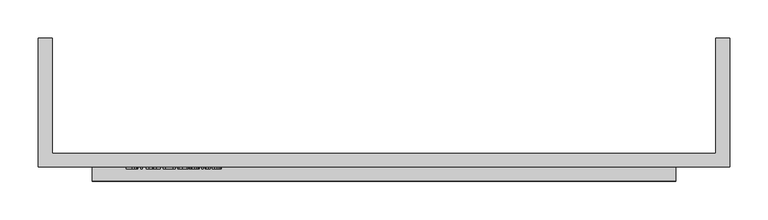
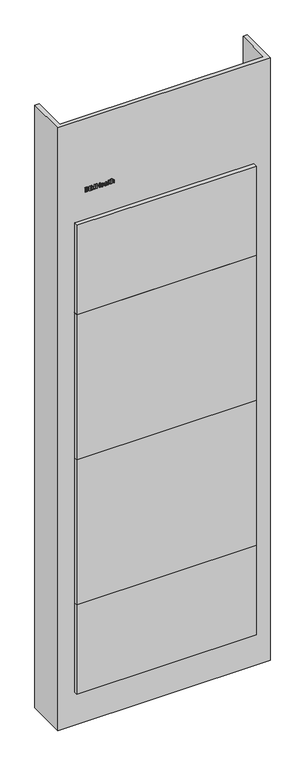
"""IFC4 building model written with IfcOpenShell, lengths in millimetres: furniture geometry, BIMHealth-Washstation-LOD2A-v1 : BIMHealth-Washstation-LOD2A-v1."""

from ifc_helpers import new_model, si_unit, frame, origin, origin_with_axes, place, context, project, spatial, polyline, outline, extrude, source, transform, mapped, element, save


def furniture_907434d5(model_context):
    return source(origin(), model_context, "Body", "SweptSolid", [
        extrude(outline(polyline([(2373.0972535, -785.4733843), (2373.0972535, -778.0166535), (2373.4361958, -774.8604035), (2374.4361958, -772.7185766), (2376.3208112, -771.2834804), (2378.9674458, -770.7041535), (2382.0299458, -771.5527112), (2383.8664843, -773.978192), (2385.6092727, -771.9805958), (2387.9097535, -771.3195381), (2390.4289843, -772.1055958), (2392.2102343, -774.2786728), (2392.7895612, -777.9589612), (2392.7895612, -785.4733843), (2373.0972535, -785.4733843)]), holes=[polyline([(2384.7895612, -783.0118458), (2390.3280227, -783.0118458), (2390.3280227, -778.8579997), (2390.0708112, -775.6945381), (2389.121292, -774.2762689), (2387.5155227, -773.7810766), (2385.9121574, -774.3123266), (2385.0010997, -775.8916535), (2384.7895612, -778.5166535), (2384.7895612, -783.0118458)]), polyline([(2375.558792, -783.0118458), (2382.3280227, -783.0118458), (2382.3280227, -778.2041535), (2381.9986958, -775.1632881), (2380.8568689, -773.6368458), (2378.9434074, -773.165692), (2376.1910035, -774.5911728), (2375.6549458, -776.1368458), (2375.558792, -777.9637689), (2375.558792, -783.0118458)])]), frame((0.0, -170.0, 0.0), z_axis=(0.0, 1.0, 0.0), x_axis=(0.0, 0.0, 1.0)), (0.0, 0.0, 1.0), 2.0),
        extrude(outline(polyline([(-764.5503074, -170.0), (-767.0118458, -170.0), (-767.0118458, -168.0), (-764.5503074, -168.0), (-764.5503074, -170.0)])), frame((0.0, 0.0, 2373.0972535), z_axis=(0.0, 0.0, 1.0), x_axis=(1.0, 0.0, 0.0)), (0.0, 0.0, 1.0), 19.6923077),
        extrude(outline(polyline([(2373.0972535, -759.6272304), (2373.0972535, -757.165692), (2390.3280227, -757.165692), (2373.0972535, -752.2137689), (2373.0972535, -748.8820381), (2390.3280227, -743.9349228), (2373.0972535, -743.9349228), (2373.0972535, -741.4733843), (2392.7895612, -741.4733843), (2392.7895612, -745.7089612), (2379.1501381, -749.6704997), (2376.0107151, -750.5503074), (2378.9097535, -751.3676151), (2392.7895612, -755.4060766), (2392.7895612, -759.6272304), (2373.0972535, -759.6272304)])), frame((0.0, -170.0, 0.0), z_axis=(0.0, 1.0, 0.0), x_axis=(0.0, 0.0, 1.0)), (0.0, 0.0, 1.0), 2.0),
        extrude(outline(polyline([(2373.0972535, -737.165692), (2373.0972535, -734.7041535), (2382.3280227, -734.7041535), (2382.3280227, -724.2426151), (2373.0972535, -724.2426151), (2373.0972535, -721.7810766), (2392.7895612, -721.7810766), (2392.7895612, -724.2426151), (2384.7895612, -724.2426151), (2384.7895612, -734.7041535), (2392.7895612, -734.7041535), (2392.7895612, -737.165692), (2373.0972535, -737.165692)])), frame((0.0, -170.0, 0.0), z_axis=(0.0, 1.0, 0.0), x_axis=(0.0, 0.0, 1.0)), (0.0, 0.0, 1.0), 2.0),
        extrude(outline(polyline([(2377.4049458, -707.6560766), (2375.7655227, -709.2426151), (2375.2510997, -711.6560766), (2376.3616766, -714.8267497), (2379.558792, -716.2426151), (2380.2222535, -705.165692), (2385.8616766, -707.0334804), (2387.8664843, -711.8435766), (2385.8568689, -716.7954997), (2380.2078304, -718.7041535), (2374.7390804, -716.8147304), (2372.7895612, -711.7041535), (2373.9193689, -707.4998266), (2377.0972535, -705.2426151), (2377.4049458, -707.6560766)]), holes=[polyline([(2382.0203304, -716.2426151), (2384.4842727, -714.884442), (2385.4049458, -711.853192), (2384.2510997, -708.6128074), (2382.0203304, -707.6272304), (2382.0203304, -716.2426151)])]), frame((0.0, -170.0, 0.0), z_axis=(0.0, 1.0, 0.0), x_axis=(0.0, 0.0, 1.0)), (0.0, 0.0, 1.0), 2.0),
        extrude(outline(polyline([(2374.9434074, -693.4733843), (2373.0972535, -692.8579997), (2373.0972535, -690.3964612), (2375.1669651, -690.8868458), (2379.4434074, -691.0118458), (2382.5059074, -691.0118458), (2384.6597535, -691.1320381), (2386.3304266, -691.8868458), (2387.4289843, -693.571942), (2387.8664843, -696.5551151), (2387.371292, -699.8027112), (2385.9626381, -701.946942), (2383.558792, -703.0118458), (2383.2510997, -700.5503074), (2384.9313881, -699.3628074), (2385.4049458, -696.8724228), (2384.6934074, -694.1512689), (2382.3280227, -693.4878074), (2381.4818689, -697.7570381), (2381.1116766, -699.8868458), (2380.3039843, -701.6104035), (2378.8905227, -702.8483843), (2376.9434074, -703.3195381), (2373.9578304, -702.071942), (2372.7895612, -698.4974228), (2373.2751381, -695.8604035), (2374.9434074, -693.4733843)]), holes=[polyline([(2379.5179266, -693.4805958), (2377.2655227, -693.8772304), (2375.840042, -695.4829997), (2375.2510997, -697.9733843), (2378.7126381, -699.5623266), (2379.1116766, -697.4445381), (2379.5179266, -693.4805958)])]), frame((0.0, -170.0, 0.0), z_axis=(0.0, 1.0, 0.0), x_axis=(0.0, 0.0, 1.0)), (0.0, 0.0, 1.0), 2.0),
        extrude(outline(polyline([(-685.165692, -170.0), (-687.6272304, -170.0), (-687.6272304, -168.0), (-685.165692, -168.0), (-685.165692, -170.0)])), frame((0.0, 0.0, 2373.0972535), z_axis=(0.0, 0.0, 1.0), x_axis=(1.0, 0.0, 0.0)), (0.0, 0.0, 1.0), 19.6923077),
        extrude(outline(polyline([(2376.1429266, -677.4733843), (2385.0972535, -678.7041535), (2385.0972535, -676.2426151), (2387.558792, -676.2426151), (2387.558792, -678.7041535), (2392.5203304, -678.7041535), (2391.0732151, -681.165692), (2387.558792, -681.165692), (2387.558792, -683.0118458), (2385.0972535, -683.0118458), (2385.0972535, -681.165692), (2377.0635997, -681.165692), (2373.1982151, -679.8387689), (2372.7895612, -677.7762689), (2373.0251381, -675.9349228), (2376.1429266, -677.4733843)])), frame((0.0, -170.0, 0.0), z_axis=(0.0, 1.0, 0.0), x_axis=(0.0, 0.0, 1.0)), (0.0, 0.0, 1.0), 2.0),
        extrude(outline(polyline([(2373.0972535, -673.7810766), (2373.0972535, -671.3195381), (2380.7799458, -671.3195381), (2383.371292, -670.9180958), (2384.8568689, -669.571942), (2385.4049458, -667.5551151), (2384.5924458, -665.3339612), (2381.996292, -664.5503074), (2373.0972535, -664.5503074), (2373.0972535, -662.0887689), (2382.2510997, -662.0887689), (2385.4866766, -662.5935766), (2387.2342727, -664.2714612), (2387.8664843, -667.0358843), (2385.5491766, -671.3195381), (2392.7895612, -671.3195381), (2392.7895612, -673.7810766), (2373.0972535, -673.7810766)])), frame((0.0, -170.0, 0.0), z_axis=(0.0, 1.0, 0.0), x_axis=(0.0, 0.0, 1.0)), (0.0, 0.0, 1.0), 2.0),
        extrude(outline(polyline([(-70.0, -168.0), (-70.0, -186.0), (-830.0, -186.0), (-830.0, -168.0), (-70.0, -168.0)])), frame((0.0, 0.0, 1850.0), z_axis=(0.0, 0.0, 1.0), x_axis=(1.0, 0.0, 0.0)), (0.0, 0.0, 1.0), 400.0),
        extrude(outline(polyline([(-70.0, -168.0), (-70.0, -186.0), (-830.0, -186.0), (-830.0, -168.0), (-70.0, -168.0)])), frame((0.0, 0.0, 1200.0), z_axis=(0.0, 0.0, 1.0), x_axis=(1.0, 0.0, 0.0)), (0.0, 0.0, 1.0), 650.0),
        extrude(outline(polyline([(-70.0, -168.0), (-70.0, -186.0), (-830.0, -186.0), (-830.0, -168.0), (-70.0, -168.0)])), frame((0.0, 0.0, 550.0), z_axis=(0.0, 0.0, 1.0), x_axis=(1.0, 0.0, 0.0)), (0.0, 0.0, 1.0), 650.0),
        extrude(outline(polyline([(-70.0, -168.0), (-70.0, -186.0), (-830.0, -186.0), (-830.0, -168.0), (-70.0, -168.0)])), frame((0.0, 0.0, 150.0), z_axis=(0.0, 0.0, 1.0), x_axis=(1.0, 0.0, 0.0)), (0.0, 0.0, 1.0), 400.0),
        extrude(outline(polyline([(-900.0, -168.0), (-900.0, 0.0), (-882.0, 0.0), (-882.0, -150.0), (-18.0, -150.0), (-18.0, 0.0), (0.0, 0.0), (0.0, -168.0), (-900.0, -168.0)])), origin_with_axes(), (0.0, 0.0, 1.0), 2700.0),
    ])


if __name__ == "__main__":
    model = new_model("IFC4")
    model_context = context("Model", 3, world=origin())
    ifc_project = project(units=[si_unit("LENGTHUNIT", "METRE", prefix="MILLI")], contexts=[model_context])
    site = spatial("IfcSite", under=ifc_project)
    building = spatial("IfcBuilding", under=site)
    placement = place(None, origin())
    furniture_shape = furniture_907434d5(model_context)
    element("IfcFurniture", 1, ObjectType="BIMHealth-Washstation-LOD2A-v1 : BIMHealth-Washstation-LOD2A-v1", at=placement, inside=building, context=model_context, shape_type="MappedRepresentation", body=[
        mapped(furniture_shape, transform((0.0, 0.0, 0.0), x_axis=(1.0, 0.0, 0.0), y_axis=(0.0, 1.0, 0.0), z_axis=(0.0, 0.0, 1.0))),
    ])
    save(model, "model.ifc")
